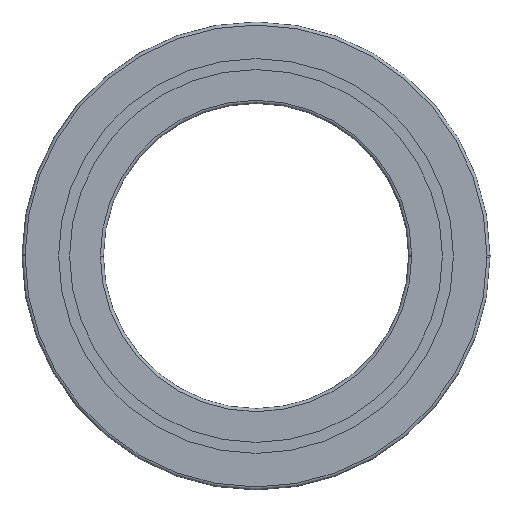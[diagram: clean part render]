
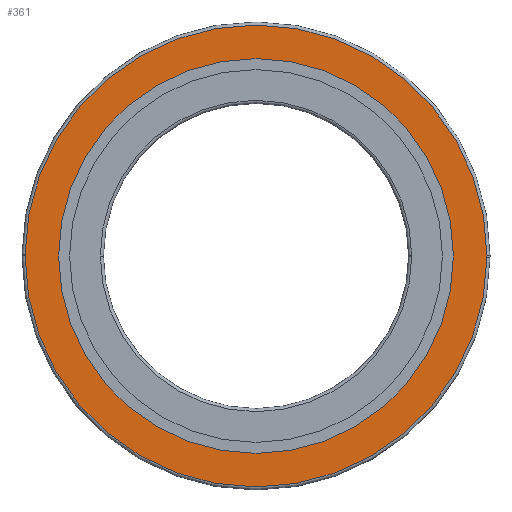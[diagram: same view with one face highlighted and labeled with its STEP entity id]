
A CAD part, front view. The second image highlights one B-rep face of the part: STEP entity #361.
In plain terms, the highlighted planar face has unit normal (0, -1, 0).
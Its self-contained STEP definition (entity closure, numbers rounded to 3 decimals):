
#361=ADVANCED_FACE('',(#904,#905),#906,.F.);
#369=EDGE_CURVE('',#783,#545,#914,.T.);
#407=VERTEX_POINT('',#956);
#437=EDGE_CURVE('',#747,#715,#989,.T.);
#521=EDGE_CURVE('',#407,#783,#1087,.T.);
#529=VERTEX_POINT('',#1095);
#545=VERTEX_POINT('',#1113);
#555=EDGE_CURVE('',#545,#529,#1124,.T.);
#581=EDGE_CURVE('',#529,#407,#1156,.T.);
#587=EDGE_CURVE('',#715,#747,#1162,.T.);
#715=VERTEX_POINT('',#1308);
#747=VERTEX_POINT('',#1346);
#783=VERTEX_POINT('',#1383);
#904=FACE_OUTER_BOUND('',#1518,.T.);
#905=FACE_BOUND('',#1519,.T.);
#906=PLANE('',#1520);
#914=CIRCLE('',#1529,113.5);
#956=CARTESIAN_POINT('',(113.498,0.0,-0.702));
#989=CIRCLE('',#1623,97.0);
#1087=CIRCLE('',#1745,113.5);
#1095=CARTESIAN_POINT('',(-113.5,0.0,0.));
#1113=CARTESIAN_POINT('',(-113.498,0.0,0.702));
#1124=CIRCLE('',#1789,113.5);
#1156=CIRCLE('',#1829,113.5);
#1162=CIRCLE('',#1837,97.0);
#1308=CARTESIAN_POINT('',(-97.0,0.0,0.0));
#1346=CARTESIAN_POINT('',(97.0,0.0,0.));
#1383=CARTESIAN_POINT('',(113.5,0.0,0.0));
#1518=EDGE_LOOP('',(#2227,#2228,#2229,#2230));
#1519=EDGE_LOOP('',(#2231,#2232));
#1520=AXIS2_PLACEMENT_3D('',#2233,#2234,#2235);
#1529=AXIS2_PLACEMENT_3D('',#2240,#2241,#2242);
#1623=AXIS2_PLACEMENT_3D('',#2334,#2335,#2336);
#1745=AXIS2_PLACEMENT_3D('',#2491,#2492,#2493);
#1789=AXIS2_PLACEMENT_3D('',#2535,#2536,#2537);
#1829=AXIS2_PLACEMENT_3D('',#2603,#2604,#2605);
#1837=AXIS2_PLACEMENT_3D('',#2609,#2610,#2611);
#2227=ORIENTED_EDGE('',*,*,#369,.T.);
#2228=ORIENTED_EDGE('',*,*,#555,.T.);
#2229=ORIENTED_EDGE('',*,*,#581,.T.);
#2230=ORIENTED_EDGE('',*,*,#521,.T.);
#2231=ORIENTED_EDGE('',*,*,#587,.F.);
#2232=ORIENTED_EDGE('',*,*,#437,.F.);
#2233=CARTESIAN_POINT('',(0.0,0.0,0.0));
#2234=DIRECTION('',(0.0,1.0,0.0));
#2235=DIRECTION('',(1.0,0.0,-0.0));
#2240=CARTESIAN_POINT('',(0.0,0.0,0.0));
#2241=DIRECTION('',(0.0,-1.0,0.0));
#2242=DIRECTION('',(1.0,0.0,0.0));
#2334=CARTESIAN_POINT('',(0.0,0.0,0.0));
#2335=DIRECTION('',(0.0,-1.0,0.0));
#2336=DIRECTION('',(1.0,0.0,0.0));
#2491=CARTESIAN_POINT('',(0.0,0.0,0.0));
#2492=DIRECTION('',(0.0,-1.0,0.0));
#2493=DIRECTION('',(-1.0,0.0,0.0));
#2535=CARTESIAN_POINT('',(0.0,0.0,0.0));
#2536=DIRECTION('',(0.0,-1.0,0.0));
#2537=DIRECTION('',(1.0,0.0,0.0));
#2603=CARTESIAN_POINT('',(0.0,0.0,0.0));
#2604=DIRECTION('',(0.0,-1.0,0.0));
#2605=DIRECTION('',(-1.0,0.0,0.0));
#2609=CARTESIAN_POINT('',(0.0,0.0,0.0));
#2610=DIRECTION('',(0.0,-1.0,0.0));
#2611=DIRECTION('',(-1.0,0.0,0.0));
